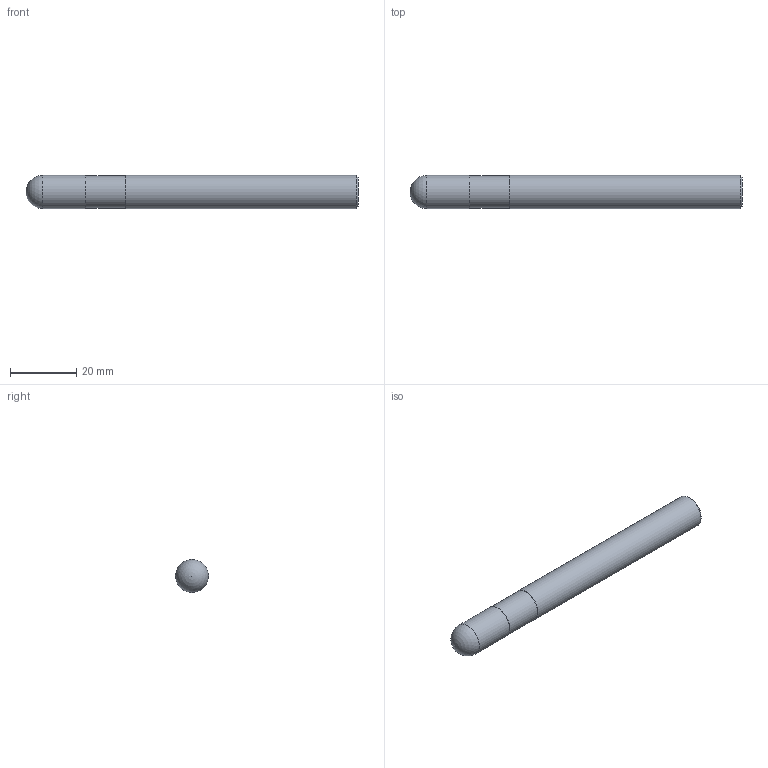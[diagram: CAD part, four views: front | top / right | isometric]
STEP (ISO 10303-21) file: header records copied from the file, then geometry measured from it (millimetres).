
FILE_DESCRIPTION(/* description */ (''),/* implementation_level */ '2;1');
FILE_NAME(/* name */ 'HSXBC4100 10100.stp',/* time_stamp */ '2026-01-27T10:32:07+08:00',/* author */ (''),/* organization */ (''),/* preprocessor_version */ 'ST-DEVELOPER v16',/* originating_system */ 'SIEMENS PLM Software NX 10.0',/* authorisation */ '');
FILE_SCHEMA (('CONFIG_CONTROL_DESIGN'));
Length unit declared in the file: millimetre
Products named in the file (1): HSXBC4100 10100_dxf
Bounding box: 100 x 10 x 10 mm (x, y, z)
Volume: 7682 mm3; surface area: 3209.3 mm2
Topology: 1 solids, 1 shells, 8 faces, 14 edges, 9 vertices
Faces by surface type: plane 3, cylinder 3, cone 1, sphere 1
Full cylindrical faces by diameter (mm): 9.8 x1, 10 x2
Entity records: 238 total; most frequent: DIRECTION 32, CARTESIAN_POINT 23, AXIS2_PLACEMENT_3D 16, EDGE_LOOP 14, ORIENTED_EDGE 14, FACE_BOUND 12, ADVANCED_FACE 8, PERSON_AND_ORGANIZATION 7
